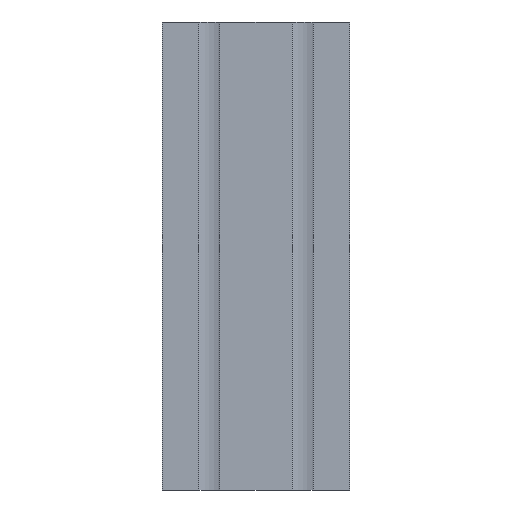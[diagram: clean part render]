
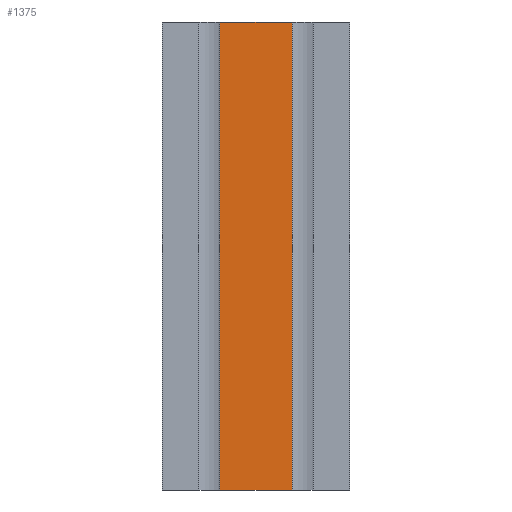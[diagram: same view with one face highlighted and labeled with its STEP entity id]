
A CAD part, front view. The second image highlights one B-rep face of the part: STEP entity #1375.
In plain terms, the highlighted planar face has unit normal (0, -1, 0).
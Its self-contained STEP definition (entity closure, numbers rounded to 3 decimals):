
#300=ORIENTED_EDGE('',*,*,#598,.F.);
#301=ORIENTED_EDGE('',*,*,#599,.F.);
#302=ORIENTED_EDGE('',*,*,#600,.T.);
#303=ORIENTED_EDGE('',*,*,#515,.F.);
#515=EDGE_CURVE('',#699,#700,#819,.T.);
#598=EDGE_CURVE('',#750,#699,#896,.T.);
#599=EDGE_CURVE('',#751,#750,#897,.T.);
#600=EDGE_CURVE('',#751,#700,#898,.T.);
#699=VERTEX_POINT('',#2009);
#700=VERTEX_POINT('',#2011);
#750=VERTEX_POINT('',#2175);
#751=VERTEX_POINT('',#2179);
#819=LINE('',#2010,#983);
#896=LINE('',#2176,#1060);
#897=LINE('',#2178,#1061);
#898=LINE('',#2180,#1062);
#983=VECTOR('',#1626,1000.);
#1060=VECTOR('',#1779,1000.);
#1061=VECTOR('',#1782,1000.);
#1062=VECTOR('',#1783,1000.);
#1158=EDGE_LOOP('',(#300,#301,#302,#303));
#1246=FACE_BOUND('',#1158,.T.);
#1309=PLANE('',#1482);
#1375=ADVANCED_FACE('',(#1246),#1309,.T.);
#1482=AXIS2_PLACEMENT_3D('',#2177,#1780,#1781);
#1626=DIRECTION('',(-1.,0.,0.));
#1779=DIRECTION('',(0.,0.,-1.));
#1780=DIRECTION('',(0.,-1.,0.));
#1781=DIRECTION('',(1.,0.,0.));
#1782=DIRECTION('',(1.,0.,0.));
#1783=DIRECTION('',(0.,0.,-1.));
#2009=CARTESIAN_POINT('',(7.75,-10.,-50.));
#2010=CARTESIAN_POINT('',(7.75,-10.,-50.));
#2011=CARTESIAN_POINT('',(-7.75,-10.,-50.));
#2175=CARTESIAN_POINT('',(7.75,-10.,50.));
#2176=CARTESIAN_POINT('',(7.75,-10.,0.));
#2177=CARTESIAN_POINT('',(-7.75,-10.,0.));
#2178=CARTESIAN_POINT('',(7.75,-10.,50.));
#2179=CARTESIAN_POINT('',(-7.75,-10.,50.));
#2180=CARTESIAN_POINT('',(-7.75,-10.,0.));
